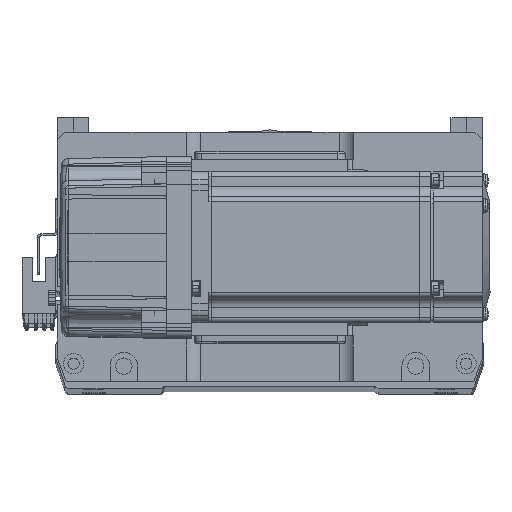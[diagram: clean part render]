
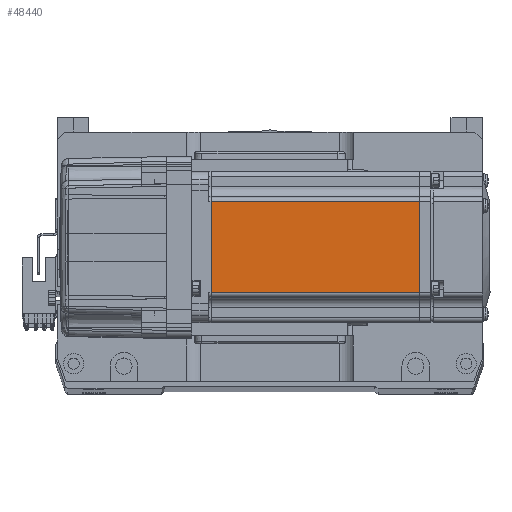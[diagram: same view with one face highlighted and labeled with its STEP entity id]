
A CAD part, top view. The second image highlights one B-rep face of the part: STEP entity #48440.
In plain terms, the highlighted planar face has unit normal (0, 0, 1) as drawn and (0, -1, 0) by its records, which use the part's own axes.
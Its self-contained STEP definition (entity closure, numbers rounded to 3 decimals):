
#747 = VERTEX_POINT ( 'NONE', #15874 ) ;
#2336 = LINE ( 'NONE', #8402, #61650 ) ;
#2432 = PLANE ( 'NONE',  #44528 ) ;
#3108 = EDGE_CURVE ( 'NONE', #5616, #13223, #2336, .T. ) ;
#4214 = VECTOR ( 'NONE', #48299, 1000. ) ;
#5616 = VERTEX_POINT ( 'NONE', #21905 ) ;
#7385 = ORIENTED_EDGE ( 'NONE', *, *, #20988, .T. ) ;
#8402 = CARTESIAN_POINT ( 'NONE',  ( -7.75, -30., -25. ) ) ;
#9181 = VERTEX_POINT ( 'NONE', #13063 ) ;
#9531 = CARTESIAN_POINT ( 'NONE',  ( -90.45, -30., -25. ) ) ;
#12661 = ORIENTED_EDGE ( 'NONE', *, *, #3108, .T. ) ;
#13063 = CARTESIAN_POINT ( 'NONE',  ( -90.45, -30., 18. ) ) ;
#13223 = VERTEX_POINT ( 'NONE', #46091 ) ;
#15361 = EDGE_LOOP ( 'NONE', ( #12661, #17499, #60280, #7385 ) ) ;
#15874 = CARTESIAN_POINT ( 'NONE',  ( -90.45, -30., -18. ) ) ;
#16478 = EDGE_CURVE ( 'NONE', #9181, #747, #45865, .T. ) ;
#17499 = ORIENTED_EDGE ( 'NONE', *, *, #41074, .T. ) ;
#18773 = LINE ( 'NONE', #36356, #45002 ) ;
#19065 = CARTESIAN_POINT ( 'NONE',  ( -6.5, -30., 18. ) ) ;
#19266 = DIRECTION ( 'NONE',  ( -1., 0., 0. ) ) ;
#20988 = EDGE_CURVE ( 'NONE', #747, #5616, #18773, .T. ) ;
#21905 = CARTESIAN_POINT ( 'NONE',  ( -7.75, -30., -18. ) ) ;
#27362 = CARTESIAN_POINT ( 'NONE',  ( -6.5, -30., -25. ) ) ;
#33369 = DIRECTION ( 'NONE',  ( 0., 0., 1. ) ) ;
#35620 = FACE_OUTER_BOUND ( 'NONE', #15361, .T. ) ;
#36356 = CARTESIAN_POINT ( 'NONE',  ( -6.5, -30., -18. ) ) ;
#39061 = LINE ( 'NONE', #19065, #59071 ) ;
#41074 = EDGE_CURVE ( 'NONE', #13223, #9181, #39061, .T. ) ;
#41499 = DIRECTION ( 'NONE',  ( 1., 0., 0. ) ) ;
#41813 = DIRECTION ( 'NONE',  ( 0., -1., 0. ) ) ;
#44528 = AXIS2_PLACEMENT_3D ( 'NONE', #27362, #41813, #61639 ) ;
#45002 = VECTOR ( 'NONE', #41499, 1000. ) ;
#45865 = LINE ( 'NONE', #9531, #4214 ) ;
#46091 = CARTESIAN_POINT ( 'NONE',  ( -7.75, -30., 18. ) ) ;
#48299 = DIRECTION ( 'NONE',  ( 0., 0., -1. ) ) ;
#48440 = ADVANCED_FACE ( 'NONE', ( #35620 ), #2432, .T. ) ;
#59071 = VECTOR ( 'NONE', #19266, 1000. ) ;
#60280 = ORIENTED_EDGE ( 'NONE', *, *, #16478, .T. ) ;
#61639 = DIRECTION ( 'NONE',  ( 0., 0., -1. ) ) ;
#61650 = VECTOR ( 'NONE', #33369, 1000. ) ;
